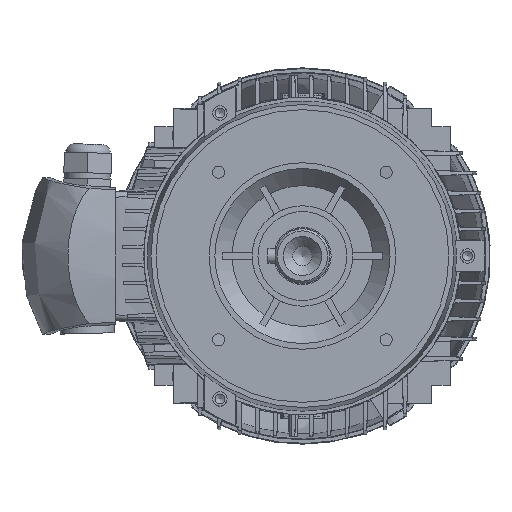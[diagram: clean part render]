
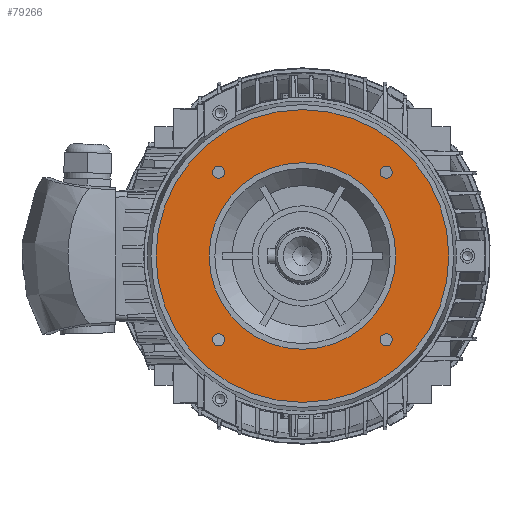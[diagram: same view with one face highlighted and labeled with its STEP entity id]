
A CAD part, left-side view. The second image highlights one B-rep face of the part: STEP entity #79266.
In plain terms, the highlighted planar face has unit normal (-1, 0, 0) as drawn and (0, 0, 1) by its records, which use the part's own axes.
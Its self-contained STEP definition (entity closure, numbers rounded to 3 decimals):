
#76360=CARTESIAN_POINT('',(-54.086,58.336,20.5));
#76361=VERTEX_POINT('',#76360);
#76362=CARTESIAN_POINT('',(-58.336,58.336,20.5));
#76363=DIRECTION('',(0.0,0.0,1.0));
#76364=DIRECTION('',(1.0,0.0,0.0));
#76365=AXIS2_PLACEMENT_3D('',#76362,#76363,#76364);
#76366=CIRCLE('',#76365,4.25);
#76367=EDGE_CURVE('',#76361,#76361,#76366,.T.);
#76388=CARTESIAN_POINT('',(-54.086,-58.336,20.5));
#76389=VERTEX_POINT('',#76388);
#76390=CARTESIAN_POINT('',(-58.336,-58.336,20.5));
#76391=DIRECTION('',(0.0,0.0,1.0));
#76392=DIRECTION('',(1.0,0.0,0.0));
#76393=AXIS2_PLACEMENT_3D('',#76390,#76391,#76392);
#76394=CIRCLE('',#76393,4.25);
#76395=EDGE_CURVE('',#76389,#76389,#76394,.T.);
#76416=CARTESIAN_POINT('',(62.586,-58.336,20.5));
#76417=VERTEX_POINT('',#76416);
#76418=CARTESIAN_POINT('',(58.336,-58.336,20.5));
#76419=DIRECTION('',(0.0,0.0,1.0));
#76420=DIRECTION('',(1.0,0.0,0.0));
#76421=AXIS2_PLACEMENT_3D('',#76418,#76419,#76420);
#76422=CIRCLE('',#76421,4.25);
#76423=EDGE_CURVE('',#76417,#76417,#76422,.T.);
#76444=CARTESIAN_POINT('',(62.586,58.336,20.5));
#76445=VERTEX_POINT('',#76444);
#76446=CARTESIAN_POINT('',(58.336,58.336,20.5));
#76447=DIRECTION('',(0.0,0.0,1.0));
#76448=DIRECTION('',(1.0,0.0,0.0));
#76449=AXIS2_PLACEMENT_3D('',#76446,#76447,#76448);
#76450=CIRCLE('',#76449,4.25);
#76451=EDGE_CURVE('',#76445,#76445,#76450,.T.);
#77044=CARTESIAN_POINT('',(102.,0.0,20.5));
#77045=VERTEX_POINT('',#77044);
#77046=CARTESIAN_POINT('',(0.0,0.0,20.5));
#77047=DIRECTION('',(0.0,0.0,1.0));
#77048=DIRECTION('',(1.0,0.0,0.0));
#77049=AXIS2_PLACEMENT_3D('',#77046,#77047,#77048);
#77050=CIRCLE('',#77049,102.);
#77051=EDGE_CURVE('',#77045,#77045,#77050,.T.);
#77061=CARTESIAN_POINT('',(65.0,0.0,20.5));
#77062=VERTEX_POINT('',#77061);
#77063=CARTESIAN_POINT('',(0.0,0.0,20.5));
#77064=DIRECTION('',(0.0,0.0,1.0));
#77065=DIRECTION('',(1.0,0.0,0.0));
#77066=AXIS2_PLACEMENT_3D('',#77063,#77064,#77065);
#77067=CIRCLE('',#77066,65.0);
#77068=EDGE_CURVE('',#77062,#77062,#77067,.T.);
#79243=CARTESIAN_POINT('',(0.0,110.5,20.5));
#79244=DIRECTION('',(0.0,0.0,1.0));
#79245=DIRECTION('',(1.0,0.0,0.0));
#79246=AXIS2_PLACEMENT_3D('',#79243,#79244,#79245);
#79247=PLANE('',#79246);
#79248=ORIENTED_EDGE('',*,*,#77051,.T.);
#79249=EDGE_LOOP('',(#79248));
#79250=FACE_OUTER_BOUND('',#79249,.T.);
#79251=ORIENTED_EDGE('',*,*,#76395,.F.);
#79252=EDGE_LOOP('',(#79251));
#79253=FACE_BOUND('',#79252,.T.);
#79254=ORIENTED_EDGE('',*,*,#76423,.F.);
#79255=EDGE_LOOP('',(#79254));
#79256=FACE_BOUND('',#79255,.T.);
#79257=ORIENTED_EDGE('',*,*,#76451,.F.);
#79258=EDGE_LOOP('',(#79257));
#79259=FACE_BOUND('',#79258,.T.);
#79260=ORIENTED_EDGE('',*,*,#77068,.F.);
#79261=EDGE_LOOP('',(#79260));
#79262=FACE_BOUND('',#79261,.T.);
#79263=ORIENTED_EDGE('',*,*,#76367,.F.);
#79264=EDGE_LOOP('',(#79263));
#79265=FACE_BOUND('',#79264,.T.);
#79266=ADVANCED_FACE('',(#79250,#79253,#79256,#79259,#79262,#79265),#79247,.T.);
